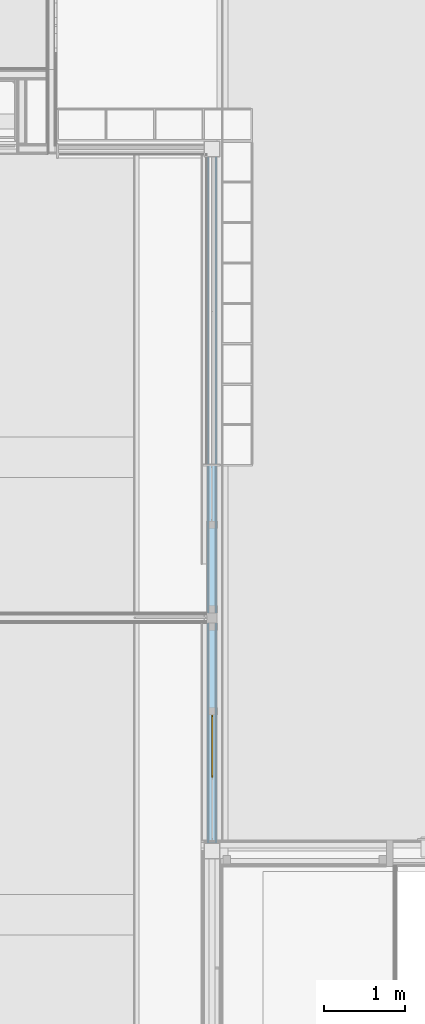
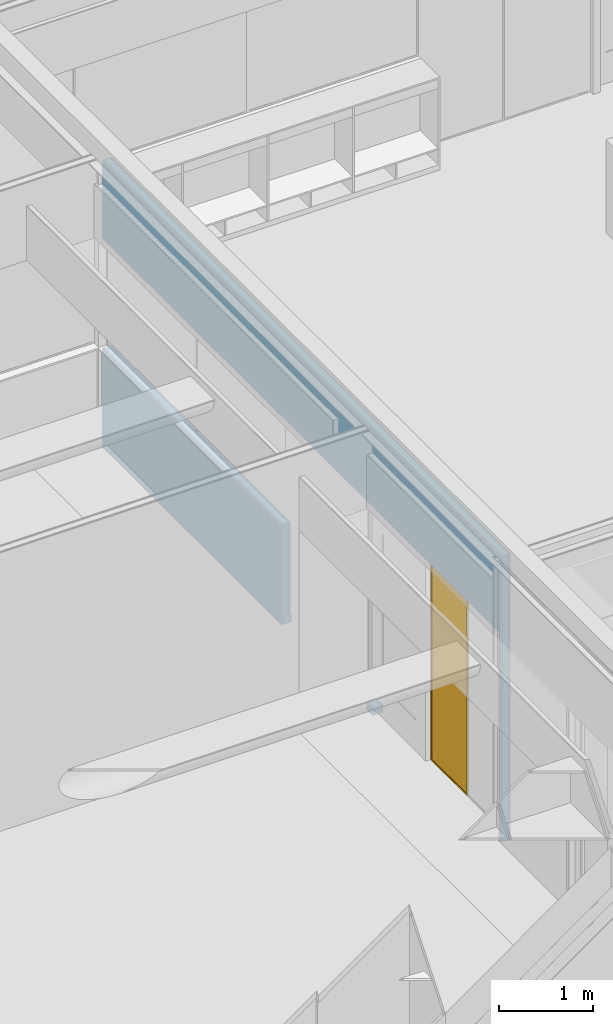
# One storey, part 60 of 137: 1 door, 7 openings, 1 element without a shape of its own, plus 5 elements that do not belong to this part.
"""IFC2X3 building model written with IfcOpenShell, lengths in millimetres."""

from ifc_helpers import new_model, entity, si_unit, converted_unit, derived_unit, money_unit, direction, frame, origin_with_axes, place, context, subcontext, project, spatial, open_shell, faceted_brep, surface_model, material, type_object, element, fill, aggregate, save


model = new_model("IFC2X3")

# Units and contexts
model_context = context("Model", 3, precision=0.01, world=origin_with_axes(), true_north=direction((0.0, 1.0)))
body_context = subcontext(model_context, "Body", "Model", "MODEL_VIEW")
ifc_project = project(units=[si_unit("LENGTHUNIT", "METRE", prefix="MILLI"), si_unit("AREAUNIT", "SQUARE_METRE"), si_unit("VOLUMEUNIT", "CUBIC_METRE"), converted_unit("PLANEANGLEUNIT", "DEGREE", entity("IfcPlaneAngleMeasure", 0.0174532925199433), si_unit("PLANEANGLEUNIT", "RADIAN"), dimensions=[0, 0, 0, 0, 0, 0, 0]), money_unit("EUR"), converted_unit("TIMEUNIT", "Year", entity("IfcTimeMeasure", 31556926.0), si_unit("TIMEUNIT", "SECOND"), dimensions=[0, 0, 1, 0, 0, 0, 0]), si_unit("MASSUNIT", "GRAM", prefix="KILO"), si_unit("THERMODYNAMICTEMPERATUREUNIT", "DEGREE_CELSIUS"), si_unit("LUMINOUSINTENSITYUNIT", "LUMEN"), si_unit("ENERGYUNIT", "JOULE", prefix="MEGA"), derived_unit("THERMALCONDUCTANCEUNIT", [(si_unit("POWERUNIT", "WATT"), 1), (si_unit("LENGTHUNIT", "METRE"), -1), (si_unit("THERMODYNAMICTEMPERATUREUNIT", "KELVIN"), -1)]), derived_unit("SPECIFICHEATCAPACITYUNIT", [(si_unit("ENERGYUNIT", "JOULE"), 1), (si_unit("MASSUNIT", "GRAM", prefix="KILO"), -1), (si_unit("THERMODYNAMICTEMPERATUREUNIT", "KELVIN"), -1)]), derived_unit("MASSDENSITYUNIT", [(si_unit("MASSUNIT", "GRAM", prefix="KILO"), 1), (si_unit("VOLUMEUNIT", "CUBIC_METRE"), -1)])], contexts=[model_context])

# Site, building, storey
site_placement = place(None, origin_with_axes())
site = spatial("IfcSite", under=ifc_project, at=site_placement, Name="Site", CompositionType="ELEMENT")
building_placement = place(site_placement, origin_with_axes())
building = spatial("IfcBuilding", under=site, at=building_placement, Name="Naam gebouw", CompositionType="ELEMENT")
storey_placement = place(building_placement, frame((0.0, 0.0, 3960.0), z_axis=(0.0, 0.0, 1.0), x_axis=(1.0, 0.0, 0.0)))
storey = spatial("IfcBuildingStorey", under=building, at=storey_placement, Name="1e verdieping", CompositionType="ELEMENT", Elevation=3960.0)

# Door
door_style = type_object("IfcDoorStyle", Name="R1 26", ConstructionType="NOTDEFINED", OperationType="SINGLE_SWING_RIGHT", ParameterTakesPrecedence=False, Sizeable=False)
proxy_placement = place(storey_placement, frame((8850.000000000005, 19449.9998112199, -100.0000000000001), z_axis=(0.0, 0.0, 1.0), x_axis=(0.0, -1.0, 0.0)))
opening_5_placement = place(proxy_placement, frame((7349.999925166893, 0.0, 100.0000000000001), z_axis=(0.0, 0.0, 1.0), x_axis=(1.0, 0.0, 0.0)))
door_placement = place(opening_5_placement, frame((-384.999925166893, 0.0, 0.0), z_axis=(0.0, 0.0, 1.0), x_axis=(1.0, 0.0, 0.0)))
door = element("IfcDoor", 1, at=door_placement, inside=storey, type_object=door_style, Name="_B.08", ObjectType="DOOR", OverallHeight=2600.0, OverallWidth=770.0, context=body_context, shape_type="SurfaceModel", body=[
    faceted_brep([(749.9998503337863, -7.500000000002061, 2580.0), (769.999850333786, -7.500000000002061, 2580.0), (769.999850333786, 12.49999999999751, 2580.0), (749.9998503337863, 12.49999999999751, 2580.0), (749.9998503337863, -7.500000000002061, 20.00000000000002), (769.999850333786, -7.500000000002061, 20.00000000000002), (769.999850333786, 12.49999999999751, 20.00000000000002), (749.9998503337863, 12.49999999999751, 20.00000000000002)], [[[0, 1, 2, 3]], [[0, 4, 5, 1]], [[1, 5, 6, 2]], [[3, 2, 6, 7]], [[4, 0, 3, 7]], [[5, 4, 7, 6]]]),
    faceted_brep([(19.99999999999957, -7.500000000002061, 20.00000000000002), (0.0, -7.500000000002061, 20.00000000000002), (0.0, 12.49999999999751, 20.00000000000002), (19.99999999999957, 12.49999999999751, 20.00000000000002), (19.99999999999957, -7.500000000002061, 2580.0), (0.0, -7.500000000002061, 2580.0), (0.0, 12.49999999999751, 2580.0), (19.99999999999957, 12.49999999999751, 2580.0)], [[[0, 1, 2, 3]], [[0, 4, 5, 1]], [[1, 5, 6, 2]], [[3, 2, 6, 7]], [[4, 0, 3, 7]], [[5, 4, 7, 6]]]),
    faceted_brep([(749.9998503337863, -7.500000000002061, 20.00000000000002), (769.999850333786, -7.500000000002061, 20.00000000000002), (769.999850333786, 12.49999999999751, 20.00000000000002), (749.9998503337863, 12.49999999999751, 20.00000000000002), (19.99999999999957, -7.500000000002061, 20.00000000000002), (0.0, -7.500000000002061, 20.00000000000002), (0.0, -7.500000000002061, 0.0), (769.999850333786, -7.500000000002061, 0.0), (769.999850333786, 12.49999999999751, 0.0), (0.0, 12.49999999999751, 0.0), (0.0, 12.49999999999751, 20.00000000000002), (19.99999999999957, 12.49999999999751, 20.00000000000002)], [[[0, 1, 2, 3]], [[0, 4, 5, 6, 7, 1]], [[1, 7, 8, 2]], [[3, 2, 8, 9, 10, 11]], [[4, 0, 3, 11]], [[5, 4, 11, 10]], [[6, 5, 10, 9]], [[7, 6, 9, 8]]]),
    faceted_brep([(19.99999999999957, -7.500000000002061, 2580.0), (0.0, -7.500000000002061, 2580.0), (0.0, 12.49999999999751, 2580.0), (19.99999999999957, 12.49999999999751, 2580.0), (749.9998503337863, -7.500000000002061, 2580.0), (769.999850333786, -7.500000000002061, 2580.0), (769.999850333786, -7.500000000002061, 2600.0), (0.0, -7.500000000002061, 2600.0), (0.0, 12.49999999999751, 2600.0), (769.999850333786, 12.49999999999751, 2600.0), (769.999850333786, 12.49999999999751, 2580.0), (749.9998503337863, 12.49999999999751, 2580.0)], [[[0, 1, 2, 3]], [[0, 4, 5, 6, 7, 1]], [[1, 7, 8, 2]], [[3, 2, 8, 9, 10, 11]], [[4, 0, 3, 11]], [[5, 4, 11, 10]], [[6, 5, 10, 9]], [[7, 6, 9, 8]]]),
    surface_model("IfcShellBasedSurfaceModel", [(749.9998503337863, -2.500000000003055, 20.00000000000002), (749.9998503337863, -2.500000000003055, 2580.0), (19.99999999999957, -2.500000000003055, 2580.0), (19.99999999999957, -2.500000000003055, 20.00000000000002)], [open_shell([[[0, 1, 2, 3]]])]),
    surface_model("IfcShellBasedSurfaceModel", [(749.9998503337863, 7.499999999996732, 20.00000000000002), (19.99999999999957, 7.499999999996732, 20.00000000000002), (19.99999999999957, 7.499999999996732, 2580.0), (749.9998503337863, 7.499999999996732, 2580.0)], [open_shell([[[0, 1, 2, 3]]])]),
])

# Proxy, openings
building_element_proxy_type = type_object("IfcBuildingElementProxyType", Name="22 Metal stud 125 gips 125", PredefinedType="NOTDEFINED")
proxy = element("IfcBuildingElementProxy", 2, at=proxy_placement, inside=storey, type_object=building_element_proxy_type, Name="_Wand-x")
opening_1_placement = place(proxy_placement, frame((8119.999775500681, 0.0, 100.0000000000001), z_axis=(0.0, 0.0, 1.0), x_axis=(1.0, 0.0, 0.0)))
element("IfcOpeningElement", 3, at=opening_1_placement, cuts=proxy, Name="_B.08", context=body_context, shape_type="Brep", body=[
    faceted_brep([(-384.999925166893, 12.49999999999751, -100.0000000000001), (-384.999925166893, 12.49999999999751, 2600.0), (-384.999925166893, 63.49999999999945, 2600.0), (-384.999925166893, 63.49999999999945, -100.0000000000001), (-384.999925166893, -63.49999999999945, -100.0000000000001), (-384.999925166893, -63.49999999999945, 2600.0), (384.999925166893, 12.49999999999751, 2600.0), (384.999925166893, 63.49999999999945, 2600.0), (384.999925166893, -63.49999999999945, 2600.0), (384.999925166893, 63.49999999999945, -100.0000000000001), (384.999925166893, 12.49999999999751, -100.0000000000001), (384.999925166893, -63.49999999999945, -100.0000000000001)], [[[0, 1, 2, 3]], [[1, 0, 4, 5]], [[6, 7, 2, 1, 5, 8]], [[7, 9, 3, 2]], [[0, 3, 9, 10, 11, 4]], [[5, 4, 11, 8]], [[6, 10, 9, 7]], [[10, 6, 8, 11]]]),
])
opening_2_placement = place(proxy_placement, frame((2950.000000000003, 0.0, 1298.0), z_axis=(0.0, 0.0, 1.0), x_axis=(1.0, 0.0, 0.0)))
element("IfcOpeningElement", 4, at=opening_2_placement, cuts=proxy, Name="_C.02", context=body_context, shape_type="Brep", body=[
    faceted_brep([(-949.9999999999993, 12.49999999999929, 0.0), (-949.9999999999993, 12.49999999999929, 1400.0), (-949.9999999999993, 63.49999999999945, 1400.0), (-949.9999999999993, 63.49999999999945, 0.0), (-949.9999999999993, -63.49999999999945, 0.0), (-949.9999999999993, -63.49999999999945, 1400.0), (950.000000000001, 12.49999999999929, 1400.0), (950.000000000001, 63.49999999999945, 1400.0), (950.000000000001, -63.49999999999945, 1400.0), (950.000000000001, 63.49999999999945, 0.0), (950.000000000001, 12.49999999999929, 0.0), (950.000000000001, -63.49999999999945, 0.0)], [[[0, 1, 2, 3]], [[1, 0, 4, 5]], [[6, 7, 2, 1, 5, 8]], [[7, 9, 3, 2]], [[0, 3, 9, 10, 11, 4]], [[5, 4, 11, 8]], [[6, 10, 9, 7]], [[10, 6, 8, 11]]]),
])
opening_3_placement = place(proxy_placement, frame((4240.000000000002, 0.0, 100.0000000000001), z_axis=(0.0, 0.0, 1.0), x_axis=(1.0, 0.0, 0.0)))
element("IfcOpeningElement", 5, at=opening_3_placement, cuts=proxy, Name="_B.07", context=body_context, shape_type="Brep", body=[
    faceted_brep([(339.9999999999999, -12.49999999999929, -100.0000000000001), (339.9999999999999, -12.49999999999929, 2600.0), (339.9999999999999, -63.49999999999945, 2600.0), (339.9999999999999, -63.49999999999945, -100.0000000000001), (339.9999999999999, 63.49999999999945, -100.0000000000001), (339.9999999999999, 63.49999999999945, 2600.0), (-339.9999999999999, -12.49999999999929, 2600.0), (-339.9999999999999, -63.49999999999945, 2600.0), (-339.9999999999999, 63.49999999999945, 2600.0), (-339.9999999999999, -63.49999999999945, -100.0000000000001), (-339.9999999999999, -12.49999999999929, -100.0000000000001), (-339.9999999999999, 63.49999999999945, -100.0000000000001)], [[[0, 1, 2, 3]], [[1, 0, 4, 5]], [[6, 7, 2, 1, 5, 8]], [[7, 9, 3, 2]], [[0, 3, 9, 10, 11, 4]], [[5, 4, 11, 8]], [[6, 10, 9, 7]], [[10, 6, 8, 11]]]),
])
opening_4_placement = place(proxy_placement, frame((5145.000000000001, 0.0, 100.0000000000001), z_axis=(0.0, 0.0, 1.0), x_axis=(1.0, 0.0, 0.0)))
element("IfcOpeningElement", 6, at=opening_4_placement, cuts=proxy, Name="_02.01", context=body_context, shape_type="Brep", body=[
    faceted_brep([(564.9999999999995, 63.49999999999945, 2600.0), (564.9999999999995, 63.49999999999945, -100.0000000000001), (-564.9999999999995, 63.49999999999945, -100.0000000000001), (-564.9999999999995, 63.49999999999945, 2600.0), (564.9999999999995, -63.49999999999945, 2600.0), (564.9999999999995, -63.49999999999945, -100.0000000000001), (-564.9999999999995, -63.49999999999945, -100.0000000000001), (-564.9999999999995, -63.49999999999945, 2600.0)], [[[0, 1, 2, 3]], [[4, 5, 1, 0]], [[5, 6, 2, 1]], [[6, 7, 3, 2]], [[7, 4, 0, 3]], [[6, 5, 4, 7]]]),
])
opening_5 = element("IfcOpeningElement", 7, at=opening_5_placement, cuts=proxy, Name="_B.08", context=body_context, shape_type="Brep", body=[
    faceted_brep([(-384.999925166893, 12.49999999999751, -100.0000000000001), (-384.999925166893, 12.49999999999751, 2600.0), (-384.999925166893, 63.49999999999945, 2600.0), (-384.999925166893, 63.49999999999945, -100.0000000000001), (-384.999925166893, -63.49999999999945, -100.0000000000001), (-384.999925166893, -63.49999999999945, 2600.0), (384.999925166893, 12.49999999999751, 2600.0), (384.999925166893, 63.49999999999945, 2600.0), (384.999925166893, -63.49999999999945, 2600.0), (384.999925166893, 63.49999999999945, -100.0000000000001), (384.999925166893, 12.49999999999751, -100.0000000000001), (384.999925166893, -63.49999999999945, -100.0000000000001)], [[[0, 1, 2, 3]], [[1, 0, 4, 5]], [[6, 7, 2, 1, 5, 8]], [[7, 9, 3, 2]], [[0, 3, 9, 10, 11, 4]], [[5, 4, 11, 8]], [[6, 10, 9, 7]], [[10, 6, 8, 11]]]),
])

fill(opening_5, door)

# Opening
opening_6_placement = place(proxy_placement, frame((6400.0, 0.0, 100.0000000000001), z_axis=(0.0, 0.0, 1.0), x_axis=(1.0, 0.0, 0.0)))
element("IfcOpeningElement", 8, at=opening_6_placement, cuts=proxy, Name="_01.01", context=body_context, shape_type="Brep", body=[
    faceted_brep([(-564.9999999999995, -63.49999999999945, 2600.0), (-564.9999999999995, -63.49999999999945, -100.0000000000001), (564.9999999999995, -63.49999999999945, -100.0000000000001), (564.9999999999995, -63.49999999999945, 2600.0), (-564.9999999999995, 63.49999999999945, 2600.0), (-564.9999999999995, 63.49999999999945, -100.0000000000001), (564.9999999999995, 63.49999999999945, -100.0000000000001), (564.9999999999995, 63.49999999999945, 2600.0)], [[[0, 1, 2, 3]], [[4, 5, 1, 0]], [[5, 6, 2, 1]], [[6, 7, 3, 2]], [[7, 4, 0, 3]], [[6, 5, 4, 7]]]),
])

opening_7_placement = place(proxy_placement, frame((1050.000000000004, 0.0, 1298.0), z_axis=(0.0, 0.0, 1.0), x_axis=(1.0, 0.0, 0.0)))
element("IfcOpeningElement", 9, at=opening_7_placement, cuts=proxy, Name="_C.02", context=body_context, shape_type="Brep", body=[
    faceted_brep([(-949.9999999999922, 12.49999999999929, 0.0), (-949.9999999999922, 12.49999999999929, 1400.0), (-949.9999999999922, 63.49999999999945, 1400.0), (-949.9999999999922, 63.49999999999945, 0.0), (-949.9999999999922, -63.49999999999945, 0.0), (-949.9999999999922, -63.49999999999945, 1400.0), (949.9999999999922, 12.49999999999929, 1400.0), (949.9999999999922, 63.49999999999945, 1400.0), (949.9999999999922, -63.49999999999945, 1400.0), (949.9999999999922, 63.49999999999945, 0.0), (949.9999999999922, 12.49999999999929, 0.0), (949.9999999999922, -63.49999999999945, 0.0)], [[[0, 1, 2, 3]], [[1, 0, 4, 5]], [[6, 7, 2, 1, 5, 8]], [[7, 9, 3, 2]], [[0, 3, 9, 10, 11, 4]], [[5, 4, 11, 8]], [[6, 10, 9, 7]], [[10, 6, 8, 11]]]),
])

# Building element part
ifc_material_1 = material(Name="Gipsplaat")
building_element_part_1_placement = place(proxy_placement, origin_with_axes())
building_element_part_1 = element("IfcBuildingElementPart", 10, at=building_element_part_1_placement, material=ifc_material_1, Name="Gipsplaat", context=body_context, shape_type="Brep", body=[
    faceted_brep([(100.0000000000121, 37.49999999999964, 1280.000000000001), (100.0000000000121, 50.00000000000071, 1280.000000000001), (100.0000000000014, 50.00000000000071, 0.0), (100.0000000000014, 37.49999999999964, 0.0), (3880.004312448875, 50.00000000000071, 1280.000000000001), (3880.004288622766, 37.49999999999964, 1280.000000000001), (3880.004312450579, 50.00000000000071, 100.0000000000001), (3900.004312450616, 49.99999999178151, 100.0000000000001), (3900.000000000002, 50.00000000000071, 0.0), (3900.000000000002, 37.49999999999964, 0.0), (3900.004288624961, 37.49999999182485, 100.0000000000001), (3880.004288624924, 37.49999999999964, 100.0000000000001)], [[[0, 1, 2, 3]], [[4, 1, 0, 5]], [[1, 4, 6, 7, 8, 2]], [[9, 3, 2, 8]], [[5, 0, 3, 9, 10, 11]], [[4, 5, 11, 6]], [[6, 11, 10, 7]], [[10, 9, 8, 7]]]),
    faceted_brep([(8539.999700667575, 49.99999999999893, 0.0), (8504.999700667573, 49.99999999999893, 0.0), (8504.999700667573, 49.99999999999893, 2700.0), (5835.000000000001, 49.99999999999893, 2700.0), (5710.000000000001, 49.99999999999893, 2700.0), (3900.000000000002, 50.00000000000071, 2700.0), (3900.000000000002, 50.00000000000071, 2698.0), (100.0000000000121, 50.00000000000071, 2698.0), (100.0000000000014, 50.00000000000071, 3683.000002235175), (8539.999700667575, 49.99999999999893, 3683.000002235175), (8539.999700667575, 37.49999999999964, 0.0), (8504.999700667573, 37.49999999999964, 0.0), (8504.999700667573, 37.49999999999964, 2700.0), (5835.000000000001, 37.49999999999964, 2700.0), (5710.000000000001, 37.49999999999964, 2700.0), (3900.000000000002, 37.49999999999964, 2700.0), (3900.000000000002, 37.49999999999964, 2698.0), (100.0000000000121, 37.49999999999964, 2698.0), (100.0000000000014, 37.49999999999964, 3683.000002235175), (8539.999700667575, 37.49999999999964, 3683.000002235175)], [[[0, 1, 2, 3, 4, 5, 6, 7, 8, 9]], [[1, 0, 10, 11]], [[1, 11, 12, 2]], [[3, 2, 12, 13]], [[4, 3, 13, 14]], [[14, 15, 5, 4]], [[16, 6, 5, 15]], [[7, 6, 16, 17]], [[7, 17, 18, 8]], [[9, 8, 18, 19]], [[10, 0, 9, 19]], [[17, 16, 15, 14, 13, 12, 11, 10, 19, 18]]]),
    faceted_brep([(5710.000000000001, 37.49999999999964, 100.0000000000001), (5710.000000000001, 49.99999999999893, 100.0000000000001), (5710.000000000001, 49.99999999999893, 0.0), (5710.000000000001, 37.49999999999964, 0.0), (5835.000000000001, 49.99999999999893, 100.0000000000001), (5835.000000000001, 37.49999999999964, 100.0000000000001), (5835.000000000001, 49.99999999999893, 0.0), (5835.000000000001, 37.49999999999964, 0.0)], [[[0, 1, 2, 3]], [[4, 1, 0, 5]], [[1, 4, 6, 2]], [[2, 6, 7, 3]], [[5, 0, 3, 7]], [[4, 5, 7, 6]]]),
    faceted_brep([(100.0000000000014, 50.00000000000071, 3695.000002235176), (100.0000000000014, 50.00000000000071, 3699.999999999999), (8539.999700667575, 49.99999999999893, 3699.999999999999), (8539.999700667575, 49.99999999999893, 3695.000002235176), (100.0000000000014, 37.49999999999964, 3699.999999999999), (100.0000000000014, 37.49999999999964, 3695.000002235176), (8539.999700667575, 37.49999999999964, 3699.999999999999), (8539.999700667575, 37.49999999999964, 3695.000002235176)], [[[0, 1, 2, 3]], [[4, 1, 0, 5]], [[1, 4, 6, 2]], [[3, 2, 6, 7]], [[5, 0, 3, 7]], [[4, 5, 7, 6]]]),
])

building_element_part_2_placement = place(proxy_placement, origin_with_axes())
building_element_part_2 = element("IfcBuildingElementPart", 11, at=building_element_part_2_placement, material=ifc_material_1, Name="Gipsplaat", context=body_context, shape_type="Brep", body=[
    faceted_brep([(100.0000000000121, -50.00000000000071, 1280.000000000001), (100.0000000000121, -37.49999999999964, 1280.000000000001), (100.0000000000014, -37.49999999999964, 0.0), (100.0000000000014, -50.00000000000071, 0.0), (3880.004145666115, -37.49999999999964, 1280.000000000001), (3880.004121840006, -49.99999999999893, 1280.000000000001), (3880.004145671, -37.49999999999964, 100.0000000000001), (3900.004145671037, -37.50000000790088, 100.0000000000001), (3900.000000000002, -37.49999999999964, 0.0), (3900.000000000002, -50.00000000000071, 0.0), (3900.004121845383, -50.00000000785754, 100.0000000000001), (3880.004121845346, -49.99999999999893, 100.0000000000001)], [[[0, 1, 2, 3]], [[4, 1, 0, 5]], [[1, 4, 6, 7, 8, 2]], [[9, 3, 2, 8]], [[5, 0, 3, 9, 10, 11]], [[4, 5, 11, 6]], [[6, 11, 10, 7]], [[10, 9, 8, 7]]]),
    faceted_brep([(8539.999700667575, -37.50000000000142, 0.0), (8504.999700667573, -37.50000000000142, 0.0), (8504.999700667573, -37.50000000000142, 2700.0), (5835.000000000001, -37.50000000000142, 2700.0), (5710.000000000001, -37.50000000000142, 2700.0), (3900.000000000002, -37.49999999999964, 2700.0), (3900.000000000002, -37.49999999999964, 2698.0), (100.0000000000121, -37.49999999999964, 2698.0), (100.0000000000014, -37.49999999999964, 3683.000002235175), (8539.999700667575, -37.50000000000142, 3683.000002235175), (8539.999700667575, -50.00000000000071, 0.0), (8504.999700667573, -50.00000000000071, 0.0), (8504.999700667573, -50.00000000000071, 2700.0), (5835.000000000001, -49.99999999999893, 2700.0), (5710.000000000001, -49.99999999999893, 2700.0), (3900.000000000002, -49.99999999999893, 2700.0), (3900.000000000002, -49.99999999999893, 2698.0), (100.0000000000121, -49.99999999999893, 2698.0), (100.0000000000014, -49.99999999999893, 3683.000002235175), (8539.999700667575, -50.00000000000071, 3683.000002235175)], [[[0, 1, 2, 3, 4, 5, 6, 7, 8, 9]], [[1, 0, 10, 11]], [[1, 11, 12, 2]], [[3, 2, 12, 13]], [[4, 3, 13, 14]], [[14, 15, 5, 4]], [[16, 6, 5, 15]], [[7, 6, 16, 17]], [[7, 17, 18, 8]], [[9, 8, 18, 19]], [[10, 0, 9, 19]], [[17, 16, 15, 14, 13, 12, 11, 10, 19, 18]]]),
    faceted_brep([(5710.000000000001, -50.00000000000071, 100.0000000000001), (5710.000000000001, -37.50000000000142, 100.0000000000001), (5710.000000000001, -37.50000000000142, 0.0), (5710.000000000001, -50.00000000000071, 0.0), (5835.000000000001, -37.50000000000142, 100.0000000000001), (5835.000000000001, -50.00000000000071, 100.0000000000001), (5835.000000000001, -37.50000000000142, 0.0), (5835.000000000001, -50.00000000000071, 0.0)], [[[0, 1, 2, 3]], [[4, 1, 0, 5]], [[1, 4, 6, 2]], [[2, 6, 7, 3]], [[5, 0, 3, 7]], [[4, 5, 7, 6]]]),
    faceted_brep([(100.0000000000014, -37.49999999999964, 3695.000002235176), (100.0000000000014, -37.49999999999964, 3699.999999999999), (8539.999700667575, -37.50000000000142, 3699.999999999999), (8539.999700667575, -37.50000000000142, 3695.000002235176), (100.0000000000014, -49.99999999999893, 3699.999999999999), (100.0000000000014, -49.99999999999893, 3695.000002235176), (8539.999700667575, -50.00000000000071, 3699.999999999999), (8539.999700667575, -50.00000000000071, 3695.000002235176)], [[[0, 1, 2, 3]], [[4, 1, 0, 5]], [[1, 4, 6, 2]], [[3, 2, 6, 7]], [[5, 0, 3, 7]], [[4, 5, 7, 6]]]),
])

building_element_part_3_placement = place(proxy_placement, origin_with_axes())
building_element_part_3 = element("IfcBuildingElementPart", 12, at=building_element_part_3_placement, material=ifc_material_1, Name="Gipsplaat", context=body_context, shape_type="Brep", body=[
    faceted_brep([(100.0000000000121, -62.5, 1280.000000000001), (100.0000000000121, -50.00000000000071, 1280.000000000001), (100.0000000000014, -50.00000000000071, 0.0), (100.0000000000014, -62.5, 0.0), (3880.004121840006, -50.00000000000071, 1280.000000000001), (3880.004098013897, -62.5, 1280.000000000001), (3880.004121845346, -50.00000000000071, 100.0000000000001), (3900.004121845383, -50.00000000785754, 100.0000000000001), (3900.000000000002, -50.00000000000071, 0.0), (3900.000000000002, -62.5, 0.0), (3900.004098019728, -62.50000000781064, 100.0000000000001), (3880.004098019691, -62.5, 100.0000000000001)], [[[0, 1, 2, 3]], [[4, 1, 0, 5]], [[1, 4, 6, 7, 8, 2]], [[9, 3, 2, 8]], [[5, 0, 3, 9, 10, 11]], [[4, 5, 11, 6]], [[6, 11, 10, 7]], [[10, 9, 8, 7]]]),
    faceted_brep([(8539.999700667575, -50.00000000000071, 0.0), (8504.999700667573, -50.00000000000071, 0.0), (8504.999700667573, -50.00000000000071, 2700.0), (5835.000000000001, -50.00000000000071, 2700.0), (5710.000000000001, -50.00000000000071, 2700.0), (3900.000000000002, -50.00000000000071, 2700.0), (3900.000000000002, -50.00000000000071, 2698.0), (100.0000000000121, -49.99999999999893, 2698.0), (100.0000000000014, -49.99999999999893, 3683.000002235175), (8539.999700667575, -50.00000000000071, 3683.000002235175), (8539.999700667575, -62.50000000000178, 0.0), (8504.999700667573, -62.50000000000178, 0.0), (8504.999700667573, -62.5, 2700.0), (5835.000000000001, -62.5, 2700.0), (5710.000000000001, -62.5, 2700.0), (3900.000000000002, -62.5, 2700.0), (3900.000000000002, -62.5, 2698.0), (100.0000000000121, -62.5, 2698.0), (100.0000000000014, -62.5, 3683.000002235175), (8539.999700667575, -62.5, 3683.000002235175)], [[[0, 1, 2, 3, 4, 5, 6, 7, 8, 9]], [[1, 0, 10, 11]], [[1, 11, 12, 2]], [[3, 2, 12, 13]], [[4, 3, 13, 14]], [[14, 15, 5, 4]], [[16, 6, 5, 15]], [[7, 6, 16, 17]], [[7, 17, 18, 8]], [[9, 8, 18, 19]], [[10, 0, 9, 19]], [[17, 16, 15, 14, 13, 12, 11, 10, 19, 18]]]),
    faceted_brep([(5710.000000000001, -62.5, 100.0000000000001), (5710.000000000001, -50.00000000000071, 100.0000000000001), (5710.000000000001, -50.00000000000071, 0.0), (5710.000000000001, -62.50000000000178, 0.0), (5835.000000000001, -50.00000000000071, 100.0000000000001), (5835.000000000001, -62.5, 100.0000000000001), (5835.000000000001, -50.00000000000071, 0.0), (5835.000000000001, -62.50000000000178, 0.0)], [[[0, 1, 2, 3]], [[4, 1, 0, 5]], [[1, 4, 6, 2]], [[2, 6, 7, 3]], [[5, 0, 3, 7]], [[4, 5, 7, 6]]]),
    faceted_brep([(100.0000000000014, -49.99999999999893, 3695.000002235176), (100.0000000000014, -49.99999999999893, 3699.999999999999), (8539.999700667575, -50.00000000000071, 3699.999999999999), (8539.999700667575, -50.00000000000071, 3695.000002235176), (100.0000000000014, -62.5, 3699.999999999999), (100.0000000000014, -62.5, 3695.000002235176), (8539.999700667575, -62.5, 3699.999999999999), (8539.999700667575, -62.5, 3695.000002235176)], [[[0, 1, 2, 3]], [[4, 1, 0, 5]], [[1, 4, 6, 2]], [[3, 2, 6, 7]], [[5, 0, 3, 7]], [[4, 5, 7, 6]]]),
])

ifc_material_2 = material(Name="ALG - LICHTE SCHEIDINGSWAND")
building_element_part_4_placement = place(proxy_placement, origin_with_axes())
building_element_part_4 = element("IfcBuildingElementPart", 13, at=building_element_part_4_placement, material=ifc_material_2, Name="ALG - LICHTE SCHEIDINGSWAND", context=body_context, shape_type="Brep", body=[
    faceted_brep([(100.0000000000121, -37.49999999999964, 1280.000000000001), (100.0000000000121, 37.49999999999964, 1280.000000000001), (100.0000000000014, 37.49999999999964, 0.0), (100.0000000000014, -37.49999999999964, 0.0), (3880.004288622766, 37.49999999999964, 1280.000000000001), (3880.004145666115, -37.49999999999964, 1280.000000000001), (3880.004288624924, 37.49999999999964, 100.0000000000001), (3900.004288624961, 37.49999999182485, 100.0000000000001), (3900.000000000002, 37.49999999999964, 0.0), (3900.000000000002, -37.49999999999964, 0.0), (3900.004145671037, -37.50000000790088, 100.0000000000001), (3880.004145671, -37.49999999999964, 100.0000000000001)], [[[0, 1, 2, 3]], [[4, 1, 0, 5]], [[1, 4, 6, 7, 8, 2]], [[2, 8, 9, 3]], [[5, 0, 3, 9, 10, 11]], [[4, 5, 11, 6]], [[6, 11, 10, 7]], [[10, 9, 8, 7]]]),
    faceted_brep([(8539.999700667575, 37.49999999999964, 0.0), (8504.999700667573, 37.49999999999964, 0.0), (8504.999700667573, 37.49999999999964, 2700.0), (5835.000000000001, 37.49999999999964, 2700.0), (5710.000000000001, 37.49999999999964, 2700.0), (3900.000000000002, 37.49999999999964, 2700.0), (3900.000000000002, 37.49999999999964, 2698.0), (100.0000000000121, 37.49999999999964, 2698.0), (100.0000000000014, 37.49999999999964, 3683.000002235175), (8539.999700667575, 37.49999999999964, 3683.000002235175), (8504.999700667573, -37.50000000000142, 0.0), (8539.999700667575, -37.50000000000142, 0.0), (8504.999700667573, -37.50000000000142, 2700.0), (5835.000000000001, -37.50000000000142, 2700.0), (5710.000000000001, -37.50000000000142, 2700.0), (3900.000000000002, -37.49999999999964, 2700.0), (3900.000000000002, -37.49999999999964, 2698.0), (100.0000000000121, -37.49999999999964, 2698.0), (100.0000000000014, -37.49999999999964, 3683.000002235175), (8539.999700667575, -37.50000000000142, 3683.000002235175)], [[[0, 1, 2, 3, 4, 5, 6, 7, 8, 9]], [[10, 1, 0, 11]], [[10, 12, 2, 1]], [[3, 2, 12, 13]], [[4, 3, 13, 14]], [[14, 15, 5, 4]], [[6, 5, 15, 16]], [[6, 16, 17, 7]], [[8, 7, 17, 18]], [[8, 18, 19, 9]], [[0, 9, 19, 11]], [[17, 16, 15, 14, 13, 12, 10, 11, 19, 18]]]),
    faceted_brep([(5710.000000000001, -37.50000000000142, 100.0000000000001), (5710.000000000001, 37.49999999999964, 100.0000000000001), (5710.000000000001, 37.49999999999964, 0.0), (5710.000000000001, -37.50000000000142, 0.0), (5835.000000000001, 37.49999999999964, 100.0000000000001), (5835.000000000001, -37.50000000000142, 100.0000000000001), (5835.000000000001, 37.49999999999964, 0.0), (5835.000000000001, -37.50000000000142, 0.0)], [[[0, 1, 2, 3]], [[4, 1, 0, 5]], [[1, 4, 6, 2]], [[2, 6, 7, 3]], [[5, 0, 3, 7]], [[4, 5, 7, 6]]]),
    faceted_brep([(100.0000000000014, 37.49999999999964, 3695.000002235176), (100.0000000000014, 37.49999999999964, 3699.999999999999), (8539.999700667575, 37.49999999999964, 3699.999999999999), (8539.999700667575, 37.49999999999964, 3695.000002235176), (100.0000000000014, -37.49999999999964, 3699.999999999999), (100.0000000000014, -37.49999999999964, 3695.000002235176), (8539.999700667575, -37.50000000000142, 3699.999999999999), (8539.999700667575, -37.50000000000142, 3695.000002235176)], [[[0, 1, 2, 3]], [[4, 1, 0, 5]], [[1, 4, 6, 2]], [[3, 2, 6, 7]], [[5, 0, 3, 7]], [[4, 5, 7, 6]]]),
])

building_element_part_5_placement = place(proxy_placement, origin_with_axes())
building_element_part_5 = element("IfcBuildingElementPart", 14, at=building_element_part_5_placement, material=ifc_material_1, Name="Gipsplaat", context=body_context, shape_type="Brep", body=[
    faceted_brep([(100.0000000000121, 50.00000000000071, 1280.000000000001), (100.0000000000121, 62.5, 1280.000000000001), (100.0000000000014, 62.5, 0.0), (100.0000000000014, 50.00000000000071, 0.0), (3880.004336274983, 62.5, 1280.000000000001), (3880.004312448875, 50.00000000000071, 1280.000000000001), (3880.004336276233, 62.5, 100.0000000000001), (3900.00433627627, 62.49999999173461, 100.0000000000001), (3900.000000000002, 62.5, 0.0), (3900.000000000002, 50.00000000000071, 0.0), (3900.004312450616, 49.99999999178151, 100.0000000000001), (3880.004312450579, 50.00000000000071, 100.0000000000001)], [[[0, 1, 2, 3]], [[4, 1, 0, 5]], [[1, 4, 6, 7, 8, 2]], [[9, 3, 2, 8]], [[5, 0, 3, 9, 10, 11]], [[4, 5, 11, 6]], [[6, 11, 10, 7]], [[10, 9, 8, 7]]]),
    faceted_brep([(8539.999700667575, 62.49999999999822, 0.0), (8504.999700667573, 62.49999999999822, 0.0), (8504.999700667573, 62.49999999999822, 2700.0), (5835.000000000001, 62.5, 2700.0), (5710.000000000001, 62.5, 2700.0), (3900.000000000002, 62.5, 2700.0), (3900.000000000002, 62.5, 2698.0), (100.0000000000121, 62.5, 2698.0), (100.0000000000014, 62.5, 3683.000002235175), (8539.999700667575, 62.5, 3683.000002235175), (8539.999700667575, 49.99999999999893, 0.0), (8504.999700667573, 49.99999999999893, 0.0), (8504.999700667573, 50.00000000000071, 2700.0), (5835.000000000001, 50.00000000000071, 2700.0), (5710.000000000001, 50.00000000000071, 2700.0), (3900.000000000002, 50.00000000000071, 2700.0), (3900.000000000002, 50.00000000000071, 2698.0), (100.0000000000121, 50.00000000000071, 2698.0), (100.0000000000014, 50.00000000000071, 3683.000002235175), (8539.999700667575, 49.99999999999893, 3683.000002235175)], [[[0, 1, 2, 3, 4, 5, 6, 7, 8, 9]], [[1, 0, 10, 11]], [[1, 11, 12, 2]], [[3, 2, 12, 13]], [[4, 3, 13, 14]], [[14, 15, 5, 4]], [[16, 6, 5, 15]], [[7, 6, 16, 17]], [[7, 17, 18, 8]], [[9, 8, 18, 19]], [[10, 0, 9, 19]], [[17, 16, 15, 14, 13, 12, 11, 10, 19, 18]]]),
    faceted_brep([(5710.000000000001, 49.99999999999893, 100.0000000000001), (5710.000000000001, 62.5, 100.0000000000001), (5710.000000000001, 62.49999999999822, 0.0), (5710.000000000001, 49.99999999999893, 0.0), (5835.000000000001, 62.5, 100.0000000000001), (5835.000000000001, 49.99999999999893, 100.0000000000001), (5835.000000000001, 62.49999999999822, 0.0), (5835.000000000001, 49.99999999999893, 0.0)], [[[0, 1, 2, 3]], [[4, 1, 0, 5]], [[1, 4, 6, 2]], [[2, 6, 7, 3]], [[5, 0, 3, 7]], [[4, 5, 7, 6]]]),
    faceted_brep([(100.0000000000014, 62.5, 3695.000002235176), (100.0000000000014, 62.5, 3699.999999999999), (8539.999700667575, 62.5, 3699.999999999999), (8539.999700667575, 62.5, 3695.000002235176), (100.0000000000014, 50.00000000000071, 3699.999999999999), (100.0000000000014, 50.00000000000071, 3695.000002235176), (8539.999700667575, 49.99999999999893, 3699.999999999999), (8539.999700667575, 49.99999999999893, 3695.000002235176)], [[[0, 1, 2, 3]], [[4, 1, 0, 5]], [[1, 4, 6, 2]], [[3, 2, 6, 7]], [[5, 0, 3, 7]], [[4, 5, 7, 6]]]),
])

aggregate(proxy, [building_element_part_1, building_element_part_2, building_element_part_3, building_element_part_4, building_element_part_5])

save(model, "model.ifc")
